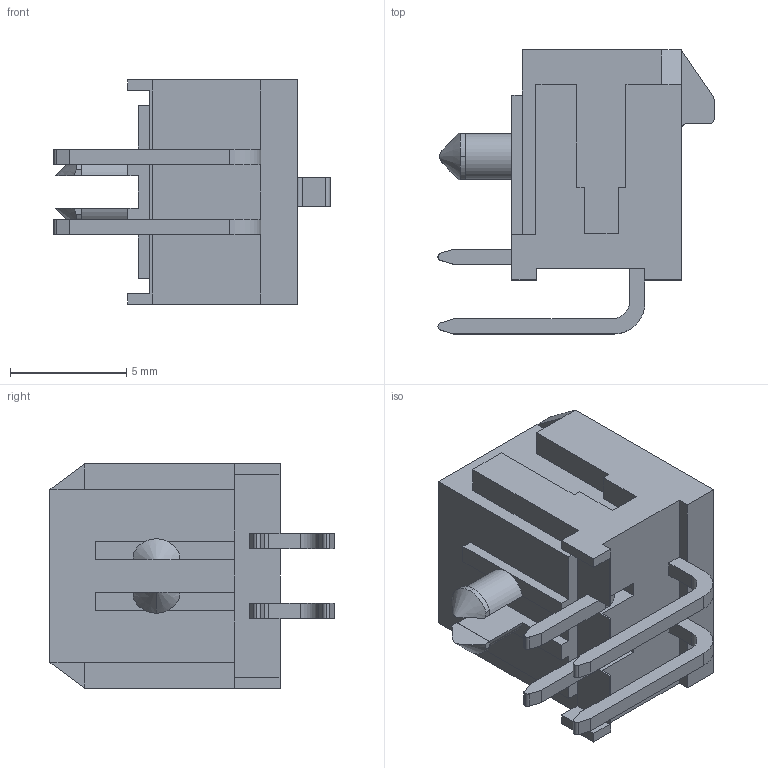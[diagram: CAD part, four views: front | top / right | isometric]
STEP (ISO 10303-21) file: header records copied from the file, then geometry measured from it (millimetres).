
FILE_DESCRIPTION (( 'STEP AP203' ), '1' );
FILE_NAME ('4976-2X02TRB-1110309.STEP', '2022-03-11T02:44:57', ( '' ), ( '' ), 'SwSTEP 2.0', 'SolidWorks 2019', '' );
FILE_SCHEMA (( 'CONFIG_CONTROL_DESIGN' ));
Length unit declared in the file: millimetre
Products named in the file (2): 4976-2X02TRB-1110309
Assembly tree (1 placements, depth 2):
  4976-2X02TRB-1110309
    4976-2X02TRB-1110309
Bounding box: 11.88 x 12.22 x 9.65 mm (x, y, z)
Volume: 436.5 mm3; surface area: 955.2 mm2
Topology: 3 solids, 3 shells, 216 faces, 562 edges, 356 vertices
Faces by surface type: plane 187, cylinder 26, cone 3
Entity records: 6684 total; most frequent: CARTESIAN_POINT 1185, ORIENTED_EDGE 1124, DIRECTION 1048, EDGE_CURVE 562, VECTOR 502, LINE 502, VERTEX_POINT 356, AXIS2_PLACEMENT_3D 273
